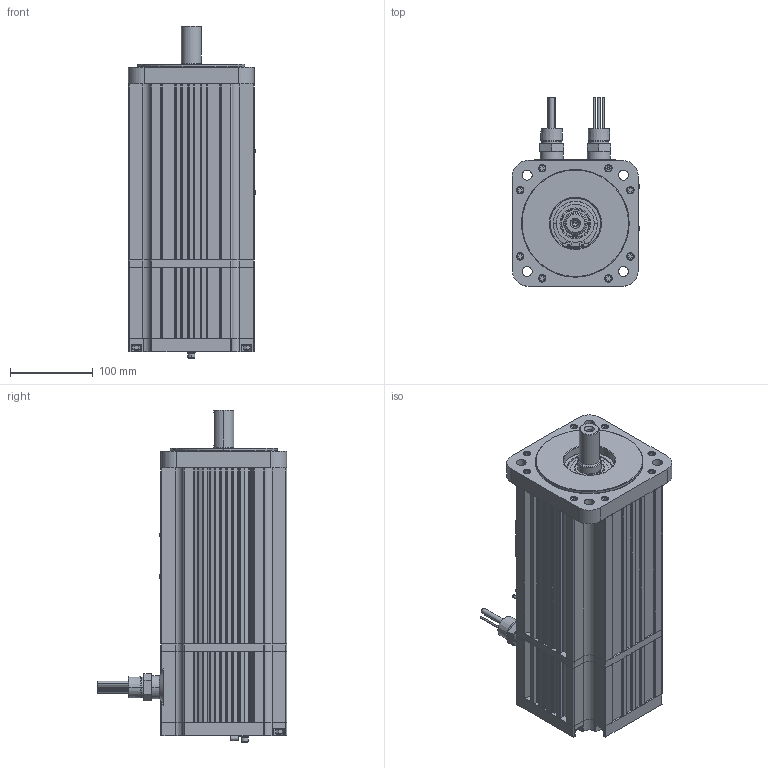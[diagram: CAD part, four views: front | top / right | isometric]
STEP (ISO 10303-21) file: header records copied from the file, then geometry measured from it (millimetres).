
FILE_DESCRIPTION (( 'STEP AP203' ), '1' );
FILE_NAME ('061625A.STEP', '2011-09-19T15:07:57', ( '' ), ( '' ), 'SwSTEP 2.0', 'SolidWorks 2011', '' );
FILE_SCHEMA (( 'CONFIG_CONTROL_DESIGN' ));
Products named in the file (1): 061625A
Bounding box: 154.08 x 229.36 x 402.1 mm (x, y, z)
Surface area: 569500.6 mm2 (no closed solid volume)
Topology: 0 solids, 175 shells, 1758 faces, 6894 edges, 5252 vertices
Faces by surface type: plane 796, cylinder 686, cone 123, torus 80, bspline 70, sphere 3
Entity records: 81782 total; most frequent: CARTESIAN_POINT 24787, DIRECTION 12051, ORIENTED_EDGE 10092, EDGE_CURVE 6876, VERTEX_POINT 5252, AXIS2_PLACEMENT_3D 4042, LINE 3967, VECTOR 3967
